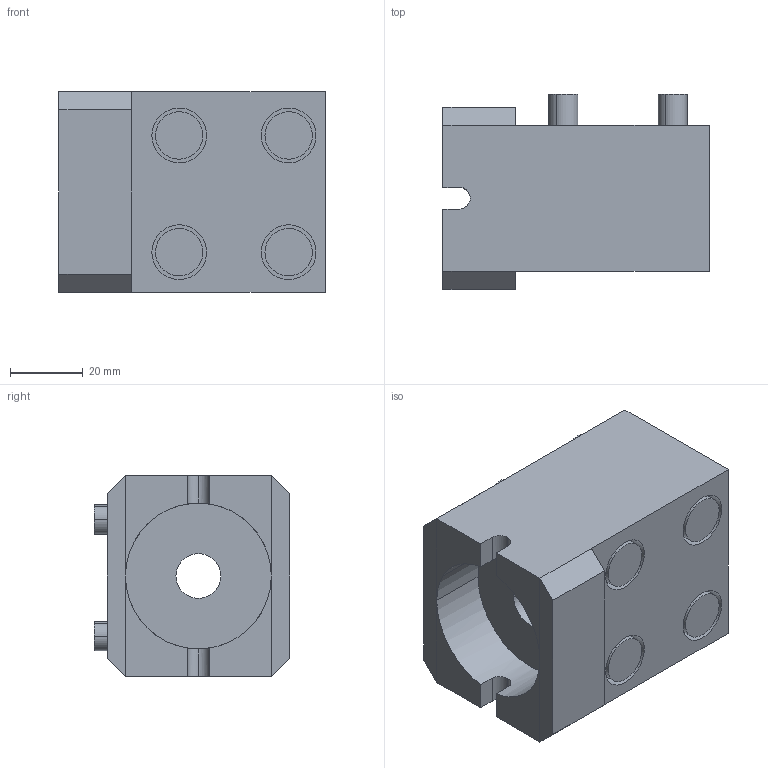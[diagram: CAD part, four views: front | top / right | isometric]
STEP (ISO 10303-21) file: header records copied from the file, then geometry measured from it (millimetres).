
FILE_DESCRIPTION(('STEP AP214'),'1');
FILE_NAME('EGT197_1720314_RD40_K50_HLR.CATPart.stp','2015-09-14T13:12:31',('3D-Tool'),(' '),'Spatial InterOp 3D',' ',' ');
FILE_SCHEMA(('automotive_design'));
Length unit declared in the file: millimetre
Products named in the file (5): EGT197_1720314_RD40_K50_HLR|EGT197_RD40_K50_HLR|Bohrbearbeitung; 1; 2; 3; 4
Bounding box: 73 x 53.5 x 55 mm (x, y, z)
Volume: 137888.8 mm3; surface area: 35397.4 mm2
Topology: 5 solids, 5 shells, 136 faces, 330 edges, 216 vertices
Faces by surface type: cylinder 92, plane 44
Entity records: 5346 total; most frequent: DIRECTION 790, CARTESIAN_POINT 755, ORIENTED_EDGE 660, EDGE_CURVE 330, AXIS2_PLACEMENT_3D 323, VERTEX_POINT 216, CIRCLE 182, EDGE_LOOP 158
